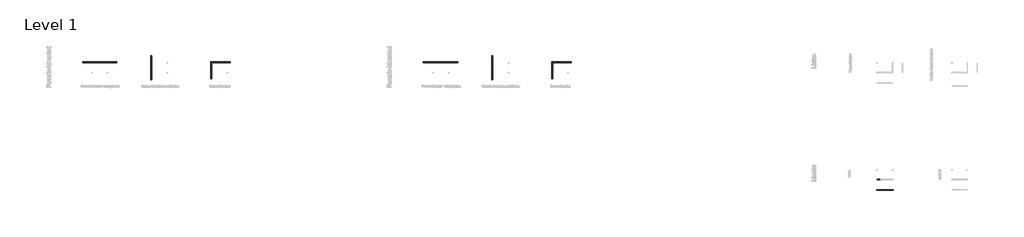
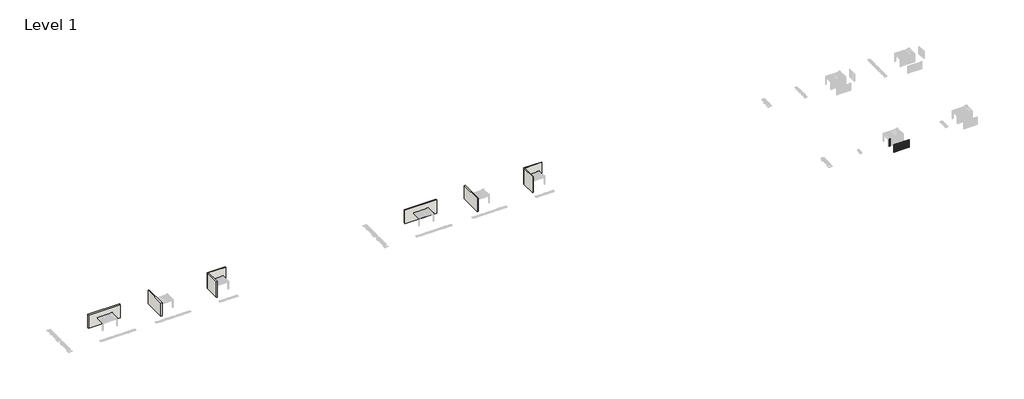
# One storey, part 1 of 47: 79 plates, 22 members, 8 walls.
"""IFC4 building model written with IfcOpenShell, lengths in millimetres."""

from ifc_helpers import new_model, si_unit, origin, origin_with_axes, place, context, project, spatial, polyline, outline, extrude, faceted_brep, transform, mapped, element, save
from components import rectangular_mullion_d2d7e0ae

model = new_model("IFC4")

# Units and contexts
model_context = context("Model", 3, world=origin())
ifc_project = project(units=[si_unit("LENGTHUNIT", "METRE", prefix="MILLI")], contexts=[model_context])

# Site, building, storey
site = spatial("IfcSite", under=ifc_project)
building = spatial("IfcBuilding", under=site)
storey = spatial("IfcBuildingStorey", under=building, Name="Level 1", Elevation=0.0)

# Members
placement = place(None, origin())
rectangular_mullion_shape = rectangular_mullion_d2d7e0ae(model_context)
element("IfcMember", 1, ObjectType="Rectangular Mullion : Renson_Linarte_LA-E25-01", at=placement, inside=storey, context=model_context, shape_type="MappedRepresentation", body=[
    mapped(rectangular_mullion_shape, transform((190463.0817456, 9961.9490047, 0.0), x_axis=(1.0, 0.0, 0.0), y_axis=(0.0, -1.0, 0.0), z_axis=(0.0, 0.0, -1.0))),
])
element("IfcMember", 2, ObjectType="Rectangular Mullion : Renson_Linarte_LA-E25-01", at=placement, inside=storey, context=model_context, shape_type="MappedRepresentation", body=[
    mapped(rectangular_mullion_shape, transform((187163.0817456, 9961.9490047, 0.0), x_axis=(1.0, 0.0, 0.0), y_axis=(0.0, -1.0, 0.0), z_axis=(0.0, 0.0, -1.0))),
])
element("IfcMember", 3, ObjectType="Rectangular Mullion : Renson_Linarte_LA-E25-01", at=placement, inside=storey, context=model_context, shape_type="MappedRepresentation", body=[
    mapped(rectangular_mullion_shape, transform((187103.0817456, 9961.9490047, 0.0), x_axis=(1.0, 0.0, 0.0), y_axis=(0.0, -1.0, 0.0), z_axis=(0.0, 0.0, -1.0))),
])
element("IfcMember", 4, ObjectType="Rectangular Mullion : Renson_Linarte_LA-E25-01", at=placement, inside=storey, context=model_context, shape_type="MappedRepresentation", body=[
    mapped(rectangular_mullion_shape, transform((187043.0817456, 9961.9490047, 0.0), x_axis=(1.0, 0.0, 0.0), y_axis=(0.0, -1.0, 0.0), z_axis=(0.0, 0.0, -1.0))),
])
element("IfcMember", 5, ObjectType="Rectangular Mullion : Renson_Linarte_LA-E25-01", at=placement, inside=storey, context=model_context, shape_type="MappedRepresentation", body=[
    mapped(rectangular_mullion_shape, transform((186983.0817456, 9961.9490047, 0.0), x_axis=(1.0, 0.0, 0.0), y_axis=(0.0, -1.0, 0.0), z_axis=(0.0, 0.0, -1.0))),
])
element("IfcMember", 6, ObjectType="Rectangular Mullion : Renson_Linarte_LA-E25-01", at=placement, inside=storey, context=model_context, shape_type="MappedRepresentation", body=[
    mapped(rectangular_mullion_shape, transform((186923.0817456, 9961.9490047, 0.0), x_axis=(1.0, 0.0, 0.0), y_axis=(0.0, -1.0, 0.0), z_axis=(0.0, 0.0, -1.0))),
])
element("IfcMember", 7, ObjectType="Rectangular Mullion : Renson_Linarte_LA-E25-01", at=placement, inside=storey, context=model_context, shape_type="MappedRepresentation", body=[
    mapped(rectangular_mullion_shape, transform((186863.0817456, 9961.9490047, 0.0), x_axis=(1.0, 0.0, 0.0), y_axis=(0.0, -1.0, 0.0), z_axis=(0.0, 0.0, -1.0))),
])
element("IfcMember", 8, ObjectType="Rectangular Mullion : Renson_Linarte_LA-E25-01", at=placement, inside=storey, context=model_context, shape_type="MappedRepresentation", body=[
    mapped(rectangular_mullion_shape, transform((186803.0817456, 9961.9490047, 0.0), x_axis=(1.0, 0.0, 0.0), y_axis=(0.0, -1.0, 0.0), z_axis=(0.0, 0.0, -1.0))),
])
element("IfcMember", 9, ObjectType="Rectangular Mullion : Renson_Linarte_LA-E25-01", at=placement, inside=storey, context=model_context, shape_type="MappedRepresentation", body=[
    mapped(rectangular_mullion_shape, transform((186743.0817456, 9961.9490047, 0.0), x_axis=(1.0, 0.0, 0.0), y_axis=(0.0, -1.0, 0.0), z_axis=(0.0, 0.0, -1.0))),
])
element("IfcMember", 10, ObjectType="Rectangular Mullion : Renson_Linarte_LA-E25-01", at=placement, inside=storey, context=model_context, shape_type="MappedRepresentation", body=[
    mapped(rectangular_mullion_shape, transform((186683.0817456, 9961.9490047, 0.0), x_axis=(1.0, 0.0, 0.0), y_axis=(0.0, -1.0, 0.0), z_axis=(0.0, 0.0, -1.0))),
])
element("IfcMember", 11, ObjectType="Rectangular Mullion : Renson_Linarte_LA-E25-01", at=placement, inside=storey, context=model_context, shape_type="MappedRepresentation", body=[
    mapped(rectangular_mullion_shape, transform((186623.0817456, 9961.9490047, 0.0), x_axis=(1.0, 0.0, 0.0), y_axis=(0.0, -1.0, 0.0), z_axis=(0.0, 0.0, -1.0))),
])
element("IfcMember", 12, ObjectType="Rectangular Mullion : Renson_Linarte_LA-E25-01", at=placement, inside=storey, context=model_context, shape_type="MappedRepresentation", body=[
    mapped(rectangular_mullion_shape, transform((186563.0817456, 9961.9490047, 0.0), x_axis=(1.0, 0.0, 0.0), y_axis=(0.0, -1.0, 0.0), z_axis=(0.0, 0.0, -1.0))),
])
element("IfcMember", 13, ObjectType="Rectangular Mullion : Renson_Linarte_LA-E25-01", at=placement, inside=storey, context=model_context, shape_type="MappedRepresentation", body=[
    mapped(rectangular_mullion_shape, transform((186503.0817456, 9961.9490047, 0.0), x_axis=(1.0, 0.0, 0.0), y_axis=(0.0, -1.0, 0.0), z_axis=(0.0, 0.0, -1.0))),
])
element("IfcMember", 14, ObjectType="Rectangular Mullion : Renson_Linarte_LA-E25-01", at=placement, inside=storey, context=model_context, shape_type="MappedRepresentation", body=[
    mapped(rectangular_mullion_shape, transform((186443.0817456, 9961.9490047, 0.0), x_axis=(1.0, 0.0, 0.0), y_axis=(0.0, -1.0, 0.0), z_axis=(0.0, 0.0, -1.0))),
])
element("IfcMember", 15, ObjectType="Rectangular Mullion : Renson_Linarte_LA-E25-01", at=placement, inside=storey, context=model_context, shape_type="MappedRepresentation", body=[
    mapped(rectangular_mullion_shape, transform((186902.4238388, 12609.3326462, 0.0), x_axis=(1.0, 0.0, 0.0), y_axis=(0.0, -1.0, 0.0), z_axis=(0.0, 0.0, -1.0))),
])
element("IfcMember", 16, ObjectType="Rectangular Mullion : Renson_Linarte_LA-E25-01", at=placement, inside=storey, context=model_context, shape_type="MappedRepresentation", body=[
    mapped(rectangular_mullion_shape, transform((186842.4238388, 12609.3326462, 0.0), x_axis=(1.0, 0.0, 0.0), y_axis=(0.0, -1.0, 0.0), z_axis=(0.0, 0.0, -1.0))),
])
element("IfcMember", 17, ObjectType="Rectangular Mullion : Renson_Linarte_LA-E25-01", at=placement, inside=storey, context=model_context, shape_type="MappedRepresentation", body=[
    mapped(rectangular_mullion_shape, transform((186782.4238388, 12609.3326462, 0.0), x_axis=(1.0, 0.0, 0.0), y_axis=(0.0, -1.0, 0.0), z_axis=(0.0, 0.0, -1.0))),
])
element("IfcMember", 18, ObjectType="Rectangular Mullion : Renson_Linarte_LA-E25-01", at=placement, inside=storey, context=model_context, shape_type="MappedRepresentation", body=[
    mapped(rectangular_mullion_shape, transform((186722.4238388, 12609.3326462, 0.0), x_axis=(1.0, 0.0, 0.0), y_axis=(0.0, -1.0, 0.0), z_axis=(0.0, 0.0, -1.0))),
])
element("IfcMember", 19, ObjectType="Rectangular Mullion : Renson_Linarte_LA-E25-01", at=placement, inside=storey, context=model_context, shape_type="MappedRepresentation", body=[
    mapped(rectangular_mullion_shape, transform((186662.4238388, 12609.3326462, 0.0), x_axis=(1.0, 0.0, 0.0), y_axis=(0.0, -1.0, 0.0), z_axis=(0.0, 0.0, -1.0))),
])
element("IfcMember", 20, ObjectType="Rectangular Mullion : Renson_Linarte_LA-E25-01", at=placement, inside=storey, context=model_context, shape_type="MappedRepresentation", body=[
    mapped(rectangular_mullion_shape, transform((186602.4238388, 12609.3326462, 0.0), x_axis=(1.0, 0.0, 0.0), y_axis=(0.0, -1.0, 0.0), z_axis=(0.0, 0.0, -1.0))),
])
element("IfcMember", 21, ObjectType="Rectangular Mullion : Renson_Linarte_LA-E25-01", at=placement, inside=storey, context=model_context, shape_type="MappedRepresentation", body=[
    mapped(rectangular_mullion_shape, transform((186542.4238388, 12609.3326462, 0.0), x_axis=(1.0, 0.0, 0.0), y_axis=(0.0, -1.0, 0.0), z_axis=(0.0, 0.0, -1.0))),
])
element("IfcMember", 22, ObjectType="Rectangular Mullion : Renson_Linarte_LA-E25-01", at=placement, inside=storey, context=model_context, shape_type="MappedRepresentation", body=[
    mapped(rectangular_mullion_shape, transform((186383.0817456, 9961.9490047, 0.0), x_axis=(1.0, 0.0, 0.0), y_axis=(0.0, -1.0, 0.0), z_axis=(0.0, 0.0, -1.0))),
])

# Plates
element("IfcPlate", 23, ObjectType="Base - 64mm", at=placement, inside=storey, context=model_context, shape_type="SweptSolid", body=[
    extrude(outline(polyline([(190463.0817456, 9929.9490047), (190403.0817456, 9929.9490047), (190403.0817456, 9993.9490047), (190463.0817456, 9993.9490047), (190463.0817456, 9929.9490047)])), origin_with_axes(), (0.0, 0.0, 1.0), 2000.0),
])
element("IfcPlate", 24, ObjectType="Base - 64mm", at=placement, inside=storey, context=model_context, shape_type="SweptSolid", body=[
    extrude(outline(polyline([(190403.0817456, 9929.9490047), (190343.0817456, 9929.9490047), (190343.0817456, 9993.9490047), (190403.0817456, 9993.9490047), (190403.0817456, 9929.9490047)])), origin_with_axes(), (0.0, 0.0, 1.0), 2000.0),
])
element("IfcPlate", 25, ObjectType="Base - 64mm", at=placement, inside=storey, context=model_context, shape_type="SweptSolid", body=[
    extrude(outline(polyline([(190343.0817456, 9929.9490047), (190283.0817456, 9929.9490047), (190283.0817456, 9993.9490047), (190343.0817456, 9993.9490047), (190343.0817456, 9929.9490047)])), origin_with_axes(), (0.0, 0.0, 1.0), 2000.0),
])
element("IfcPlate", 26, ObjectType="Base - 64mm", at=placement, inside=storey, context=model_context, shape_type="SweptSolid", body=[
    extrude(outline(polyline([(190283.0817456, 9929.9490047), (190223.0817456, 9929.9490047), (190223.0817456, 9993.9490047), (190283.0817456, 9993.9490047), (190283.0817456, 9929.9490047)])), origin_with_axes(), (0.0, 0.0, 1.0), 2000.0),
])
element("IfcPlate", 27, ObjectType="Base - 64mm", at=placement, inside=storey, context=model_context, shape_type="SweptSolid", body=[
    extrude(outline(polyline([(190223.0817456, 9929.9490047), (190163.0817456, 9929.9490047), (190163.0817456, 9993.9490047), (190223.0817456, 9993.9490047), (190223.0817456, 9929.9490047)])), origin_with_axes(), (0.0, 0.0, 1.0), 2000.0),
])
element("IfcPlate", 28, ObjectType="Base - 64mm", at=placement, inside=storey, context=model_context, shape_type="SweptSolid", body=[
    extrude(outline(polyline([(190163.0817456, 9929.9490047), (190103.0817456, 9929.9490047), (190103.0817456, 9993.9490047), (190163.0817456, 9993.9490047), (190163.0817456, 9929.9490047)])), origin_with_axes(), (0.0, 0.0, 1.0), 2000.0),
])
element("IfcPlate", 29, ObjectType="Base - 64mm", at=placement, inside=storey, context=model_context, shape_type="SweptSolid", body=[
    extrude(outline(polyline([(190103.0817456, 9929.9490047), (190043.0817456, 9929.9490047), (190043.0817456, 9993.9490047), (190103.0817456, 9993.9490047), (190103.0817456, 9929.9490047)])), origin_with_axes(), (0.0, 0.0, 1.0), 2000.0),
])
element("IfcPlate", 30, ObjectType="Base - 64mm", at=placement, inside=storey, context=model_context, shape_type="SweptSolid", body=[
    extrude(outline(polyline([(190043.0817456, 9929.9490047), (189983.0817456, 9929.9490047), (189983.0817456, 9993.9490047), (190043.0817456, 9993.9490047), (190043.0817456, 9929.9490047)])), origin_with_axes(), (0.0, 0.0, 1.0), 2000.0),
])
element("IfcPlate", 31, ObjectType="Base - 64mm", at=placement, inside=storey, context=model_context, shape_type="SweptSolid", body=[
    extrude(outline(polyline([(189983.0817456, 9929.9490047), (189923.0817456, 9929.9490047), (189923.0817456, 9993.9490047), (189983.0817456, 9993.9490047), (189983.0817456, 9929.9490047)])), origin_with_axes(), (0.0, 0.0, 1.0), 2000.0),
])
element("IfcPlate", 32, ObjectType="Base - 64mm", at=placement, inside=storey, context=model_context, shape_type="SweptSolid", body=[
    extrude(outline(polyline([(189923.0817456, 9929.9490047), (189863.0817456, 9929.9490047), (189863.0817456, 9993.9490047), (189923.0817456, 9993.9490047), (189923.0817456, 9929.9490047)])), origin_with_axes(), (0.0, 0.0, 1.0), 2000.0),
])
element("IfcPlate", 33, ObjectType="Base - 64mm", at=placement, inside=storey, context=model_context, shape_type="SweptSolid", body=[
    extrude(outline(polyline([(189863.0817456, 9929.9490047), (189803.0817456, 9929.9490047), (189803.0817456, 9993.9490047), (189863.0817456, 9993.9490047), (189863.0817456, 9929.9490047)])), origin_with_axes(), (0.0, 0.0, 1.0), 2000.0),
])
element("IfcPlate", 34, ObjectType="Base - 64mm", at=placement, inside=storey, context=model_context, shape_type="SweptSolid", body=[
    extrude(outline(polyline([(189803.0817456, 9929.9490047), (189743.0817456, 9929.9490047), (189743.0817456, 9993.9490047), (189803.0817456, 9993.9490047), (189803.0817456, 9929.9490047)])), origin_with_axes(), (0.0, 0.0, 1.0), 2000.0),
])
element("IfcPlate", 35, ObjectType="Base - 64mm", at=placement, inside=storey, context=model_context, shape_type="SweptSolid", body=[
    extrude(outline(polyline([(189743.0817456, 9929.9490047), (189683.0817456, 9929.9490047), (189683.0817456, 9993.9490047), (189743.0817456, 9993.9490047), (189743.0817456, 9929.9490047)])), origin_with_axes(), (0.0, 0.0, 1.0), 2000.0),
])
element("IfcPlate", 36, ObjectType="Base - 64mm", at=placement, inside=storey, context=model_context, shape_type="SweptSolid", body=[
    extrude(outline(polyline([(189683.0817456, 9929.9490047), (189623.0817456, 9929.9490047), (189623.0817456, 9993.9490047), (189683.0817456, 9993.9490047), (189683.0817456, 9929.9490047)])), origin_with_axes(), (0.0, 0.0, 1.0), 2000.0),
])
element("IfcPlate", 37, ObjectType="Base - 64mm", at=placement, inside=storey, context=model_context, shape_type="SweptSolid", body=[
    extrude(outline(polyline([(189623.0817456, 9929.9490047), (189563.0817456, 9929.9490047), (189563.0817456, 9993.9490047), (189623.0817456, 9993.9490047), (189623.0817456, 9929.9490047)])), origin_with_axes(), (0.0, 0.0, 1.0), 2000.0),
])
element("IfcPlate", 38, ObjectType="Base - 64mm", at=placement, inside=storey, context=model_context, shape_type="SweptSolid", body=[
    extrude(outline(polyline([(189563.0817456, 9929.9490047), (189503.0817456, 9929.9490047), (189503.0817456, 9993.9490047), (189563.0817456, 9993.9490047), (189563.0817456, 9929.9490047)])), origin_with_axes(), (0.0, 0.0, 1.0), 2000.0),
])
element("IfcPlate", 39, ObjectType="Base - 64mm", at=placement, inside=storey, context=model_context, shape_type="SweptSolid", body=[
    extrude(outline(polyline([(189503.0817456, 9929.9490047), (189443.0817456, 9929.9490047), (189443.0817456, 9993.9490047), (189503.0817456, 9993.9490047), (189503.0817456, 9929.9490047)])), origin_with_axes(), (0.0, 0.0, 1.0), 2000.0),
])
element("IfcPlate", 40, ObjectType="Base - 64mm", at=placement, inside=storey, context=model_context, shape_type="SweptSolid", body=[
    extrude(outline(polyline([(189443.0817456, 9929.9490047), (189383.0817456, 9929.9490047), (189383.0817456, 9993.9490047), (189443.0817456, 9993.9490047), (189443.0817456, 9929.9490047)])), origin_with_axes(), (0.0, 0.0, 1.0), 2000.0),
])
element("IfcPlate", 41, ObjectType="Base - 64mm", at=placement, inside=storey, context=model_context, shape_type="SweptSolid", body=[
    extrude(outline(polyline([(189383.0817456, 9929.9490047), (189323.0817456, 9929.9490047), (189323.0817456, 9993.9490047), (189383.0817456, 9993.9490047), (189383.0817456, 9929.9490047)])), origin_with_axes(), (0.0, 0.0, 1.0), 2000.0),
])
element("IfcPlate", 42, ObjectType="Base - 64mm", at=placement, inside=storey, context=model_context, shape_type="SweptSolid", body=[
    extrude(outline(polyline([(189323.0817456, 9929.9490047), (189263.0817456, 9929.9490047), (189263.0817456, 9993.9490047), (189323.0817456, 9993.9490047), (189323.0817456, 9929.9490047)])), origin_with_axes(), (0.0, 0.0, 1.0), 2000.0),
])
element("IfcPlate", 43, ObjectType="Base - 64mm", at=placement, inside=storey, context=model_context, shape_type="SweptSolid", body=[
    extrude(outline(polyline([(189263.0817456, 9929.9490047), (189203.0817456, 9929.9490047), (189203.0817456, 9993.9490047), (189263.0817456, 9993.9490047), (189263.0817456, 9929.9490047)])), origin_with_axes(), (0.0, 0.0, 1.0), 2000.0),
])
element("IfcPlate", 44, ObjectType="Base - 64mm", at=placement, inside=storey, context=model_context, shape_type="SweptSolid", body=[
    extrude(outline(polyline([(189203.0817456, 9929.9490047), (189143.0817456, 9929.9490047), (189143.0817456, 9993.9490047), (189203.0817456, 9993.9490047), (189203.0817456, 9929.9490047)])), origin_with_axes(), (0.0, 0.0, 1.0), 2000.0),
])
element("IfcPlate", 45, ObjectType="Base - 64mm", at=placement, inside=storey, context=model_context, shape_type="SweptSolid", body=[
    extrude(outline(polyline([(189143.0817456, 9929.9490047), (189083.0817456, 9929.9490047), (189083.0817456, 9993.9490047), (189143.0817456, 9993.9490047), (189143.0817456, 9929.9490047)])), origin_with_axes(), (0.0, 0.0, 1.0), 2000.0),
])
element("IfcPlate", 46, ObjectType="Base - 64mm", at=placement, inside=storey, context=model_context, shape_type="SweptSolid", body=[
    extrude(outline(polyline([(189083.0817456, 9929.9490047), (189023.0817456, 9929.9490047), (189023.0817456, 9993.9490047), (189083.0817456, 9993.9490047), (189083.0817456, 9929.9490047)])), origin_with_axes(), (0.0, 0.0, 1.0), 2000.0),
])
element("IfcPlate", 47, ObjectType="Base - 64mm", at=placement, inside=storey, context=model_context, shape_type="SweptSolid", body=[
    extrude(outline(polyline([(189023.0817456, 9929.9490047), (188963.0817456, 9929.9490047), (188963.0817456, 9993.9490047), (189023.0817456, 9993.9490047), (189023.0817456, 9929.9490047)])), origin_with_axes(), (0.0, 0.0, 1.0), 2000.0),
])
element("IfcPlate", 48, ObjectType="Base - 64mm", at=placement, inside=storey, context=model_context, shape_type="SweptSolid", body=[
    extrude(outline(polyline([(188963.0817456, 9929.9490047), (188903.0817456, 9929.9490047), (188903.0817456, 9993.9490047), (188963.0817456, 9993.9490047), (188963.0817456, 9929.9490047)])), origin_with_axes(), (0.0, 0.0, 1.0), 2000.0),
])
element("IfcPlate", 49, ObjectType="Base - 64mm", at=placement, inside=storey, context=model_context, shape_type="SweptSolid", body=[
    extrude(outline(polyline([(188903.0817456, 9929.9490047), (188843.0817456, 9929.9490047), (188843.0817456, 9993.9490047), (188903.0817456, 9993.9490047), (188903.0817456, 9929.9490047)])), origin_with_axes(), (0.0, 0.0, 1.0), 2000.0),
])
element("IfcPlate", 50, ObjectType="Base - 64mm", at=placement, inside=storey, context=model_context, shape_type="SweptSolid", body=[
    extrude(outline(polyline([(188843.0817456, 9929.9490047), (188783.0817456, 9929.9490047), (188783.0817456, 9993.9490047), (188843.0817456, 9993.9490047), (188843.0817456, 9929.9490047)])), origin_with_axes(), (0.0, 0.0, 1.0), 2000.0),
])
element("IfcPlate", 51, ObjectType="Base - 64mm", at=placement, inside=storey, context=model_context, shape_type="SweptSolid", body=[
    extrude(outline(polyline([(188783.0817456, 9929.9490047), (188723.0817456, 9929.9490047), (188723.0817456, 9993.9490047), (188783.0817456, 9993.9490047), (188783.0817456, 9929.9490047)])), origin_with_axes(), (0.0, 0.0, 1.0), 2000.0),
])
element("IfcPlate", 52, ObjectType="Base - 64mm", at=placement, inside=storey, context=model_context, shape_type="SweptSolid", body=[
    extrude(outline(polyline([(188723.0817456, 9929.9490047), (188663.0817456, 9929.9490047), (188663.0817456, 9993.9490047), (188723.0817456, 9993.9490047), (188723.0817456, 9929.9490047)])), origin_with_axes(), (0.0, 0.0, 1.0), 2000.0),
])
element("IfcPlate", 53, ObjectType="Base - 64mm", at=placement, inside=storey, context=model_context, shape_type="SweptSolid", body=[
    extrude(outline(polyline([(188663.0817456, 9929.9490047), (188603.0817456, 9929.9490047), (188603.0817456, 9993.9490047), (188663.0817456, 9993.9490047), (188663.0817456, 9929.9490047)])), origin_with_axes(), (0.0, 0.0, 1.0), 2000.0),
])
element("IfcPlate", 54, ObjectType="Base - 64mm", at=placement, inside=storey, context=model_context, shape_type="SweptSolid", body=[
    extrude(outline(polyline([(188603.0817456, 9929.9490047), (188543.0817456, 9929.9490047), (188543.0817456, 9993.9490047), (188603.0817456, 9993.9490047), (188603.0817456, 9929.9490047)])), origin_with_axes(), (0.0, 0.0, 1.0), 2000.0),
])
element("IfcPlate", 55, ObjectType="Base - 64mm", at=placement, inside=storey, context=model_context, shape_type="SweptSolid", body=[
    extrude(outline(polyline([(188543.0817456, 9929.9490047), (188483.0817456, 9929.9490047), (188483.0817456, 9993.9490047), (188543.0817456, 9993.9490047), (188543.0817456, 9929.9490047)])), origin_with_axes(), (0.0, 0.0, 1.0), 2000.0),
])
element("IfcPlate", 56, ObjectType="Base - 64mm", at=placement, inside=storey, context=model_context, shape_type="SweptSolid", body=[
    extrude(outline(polyline([(188483.0817456, 9929.9490047), (188423.0817456, 9929.9490047), (188423.0817456, 9993.9490047), (188483.0817456, 9993.9490047), (188483.0817456, 9929.9490047)])), origin_with_axes(), (0.0, 0.0, 1.0), 2000.0),
])
element("IfcPlate", 57, ObjectType="Base - 64mm", at=placement, inside=storey, context=model_context, shape_type="SweptSolid", body=[
    extrude(outline(polyline([(188423.0817456, 9929.9490047), (188363.0817456, 9929.9490047), (188363.0817456, 9993.9490047), (188423.0817456, 9993.9490047), (188423.0817456, 9929.9490047)])), origin_with_axes(), (0.0, 0.0, 1.0), 2000.0),
])
element("IfcPlate", 58, ObjectType="Base - 64mm", at=placement, inside=storey, context=model_context, shape_type="SweptSolid", body=[
    extrude(outline(polyline([(188363.0817456, 9929.9490047), (188303.0817456, 9929.9490047), (188303.0817456, 9993.9490047), (188363.0817456, 9993.9490047), (188363.0817456, 9929.9490047)])), origin_with_axes(), (0.0, 0.0, 1.0), 2000.0),
])
element("IfcPlate", 59, ObjectType="Base - 64mm", at=placement, inside=storey, context=model_context, shape_type="SweptSolid", body=[
    extrude(outline(polyline([(188303.0817456, 9929.9490047), (188243.0817456, 9929.9490047), (188243.0817456, 9993.9490047), (188303.0817456, 9993.9490047), (188303.0817456, 9929.9490047)])), origin_with_axes(), (0.0, 0.0, 1.0), 2000.0),
])
element("IfcPlate", 60, ObjectType="Base - 64mm", at=placement, inside=storey, context=model_context, shape_type="SweptSolid", body=[
    extrude(outline(polyline([(188243.0817456, 9929.9490047), (188183.0817456, 9929.9490047), (188183.0817456, 9993.9490047), (188243.0817456, 9993.9490047), (188243.0817456, 9929.9490047)])), origin_with_axes(), (0.0, 0.0, 1.0), 2000.0),
])
element("IfcPlate", 61, ObjectType="Base - 64mm", at=placement, inside=storey, context=model_context, shape_type="SweptSolid", body=[
    extrude(outline(polyline([(188183.0817456, 9929.9490047), (188123.0817456, 9929.9490047), (188123.0817456, 9993.9490047), (188183.0817456, 9993.9490047), (188183.0817456, 9929.9490047)])), origin_with_axes(), (0.0, 0.0, 1.0), 2000.0),
])
element("IfcPlate", 62, ObjectType="Base - 64mm", at=placement, inside=storey, context=model_context, shape_type="SweptSolid", body=[
    extrude(outline(polyline([(188123.0817456, 9929.9490047), (188063.0817456, 9929.9490047), (188063.0817456, 9993.9490047), (188123.0817456, 9993.9490047), (188123.0817456, 9929.9490047)])), origin_with_axes(), (0.0, 0.0, 1.0), 2000.0),
])
element("IfcPlate", 63, ObjectType="Base - 64mm", at=placement, inside=storey, context=model_context, shape_type="SweptSolid", body=[
    extrude(outline(polyline([(188063.0817456, 9929.9490047), (188003.0817456, 9929.9490047), (188003.0817456, 9993.9490047), (188063.0817456, 9993.9490047), (188063.0817456, 9929.9490047)])), origin_with_axes(), (0.0, 0.0, 1.0), 2000.0),
])
element("IfcPlate", 64, ObjectType="Base - 64mm", at=placement, inside=storey, context=model_context, shape_type="SweptSolid", body=[
    extrude(outline(polyline([(188003.0817456, 9929.9490047), (187943.0817456, 9929.9490047), (187943.0817456, 9993.9490047), (188003.0817456, 9993.9490047), (188003.0817456, 9929.9490047)])), origin_with_axes(), (0.0, 0.0, 1.0), 2000.0),
])
element("IfcPlate", 65, ObjectType="Base - 64mm", at=placement, inside=storey, context=model_context, shape_type="SweptSolid", body=[
    extrude(outline(polyline([(187943.0817456, 9929.9490047), (187883.0817456, 9929.9490047), (187883.0817456, 9993.9490047), (187943.0817456, 9993.9490047), (187943.0817456, 9929.9490047)])), origin_with_axes(), (0.0, 0.0, 1.0), 2000.0),
])
element("IfcPlate", 66, ObjectType="Base - 64mm", at=placement, inside=storey, context=model_context, shape_type="SweptSolid", body=[
    extrude(outline(polyline([(187883.0817456, 9929.9490047), (187823.0817456, 9929.9490047), (187823.0817456, 9993.9490047), (187883.0817456, 9993.9490047), (187883.0817456, 9929.9490047)])), origin_with_axes(), (0.0, 0.0, 1.0), 2000.0),
])
element("IfcPlate", 67, ObjectType="Base - 64mm", at=placement, inside=storey, context=model_context, shape_type="SweptSolid", body=[
    extrude(outline(polyline([(187823.0817456, 9929.9490047), (187763.0817456, 9929.9490047), (187763.0817456, 9993.9490047), (187823.0817456, 9993.9490047), (187823.0817456, 9929.9490047)])), origin_with_axes(), (0.0, 0.0, 1.0), 2000.0),
])
element("IfcPlate", 68, ObjectType="Base - 64mm", at=placement, inside=storey, context=model_context, shape_type="SweptSolid", body=[
    extrude(outline(polyline([(187763.0817456, 9929.9490047), (187703.0817456, 9929.9490047), (187703.0817456, 9993.9490047), (187763.0817456, 9993.9490047), (187763.0817456, 9929.9490047)])), origin_with_axes(), (0.0, 0.0, 1.0), 2000.0),
])
element("IfcPlate", 69, ObjectType="Base - 64mm", at=placement, inside=storey, context=model_context, shape_type="SweptSolid", body=[
    extrude(outline(polyline([(187703.0817456, 9929.9490047), (187643.0817456, 9929.9490047), (187643.0817456, 9993.9490047), (187703.0817456, 9993.9490047), (187703.0817456, 9929.9490047)])), origin_with_axes(), (0.0, 0.0, 1.0), 2000.0),
])
element("IfcPlate", 70, ObjectType="Base - 64mm", at=placement, inside=storey, context=model_context, shape_type="SweptSolid", body=[
    extrude(outline(polyline([(187643.0817456, 9929.9490047), (187583.0817456, 9929.9490047), (187583.0817456, 9993.9490047), (187643.0817456, 9993.9490047), (187643.0817456, 9929.9490047)])), origin_with_axes(), (0.0, 0.0, 1.0), 2000.0),
])
element("IfcPlate", 71, ObjectType="Base - 64mm", at=placement, inside=storey, context=model_context, shape_type="SweptSolid", body=[
    extrude(outline(polyline([(187583.0817456, 9929.9490047), (187523.0817456, 9929.9490047), (187523.0817456, 9993.9490047), (187583.0817456, 9993.9490047), (187583.0817456, 9929.9490047)])), origin_with_axes(), (0.0, 0.0, 1.0), 2000.0),
])
element("IfcPlate", 72, ObjectType="Base - 64mm", at=placement, inside=storey, context=model_context, shape_type="SweptSolid", body=[
    extrude(outline(polyline([(187523.0817456, 9929.9490047), (187463.0817456, 9929.9490047), (187463.0817456, 9993.9490047), (187523.0817456, 9993.9490047), (187523.0817456, 9929.9490047)])), origin_with_axes(), (0.0, 0.0, 1.0), 2000.0),
])
element("IfcPlate", 73, ObjectType="Base - 64mm", at=placement, inside=storey, context=model_context, shape_type="SweptSolid", body=[
    extrude(outline(polyline([(187463.0817456, 9929.9490047), (187403.0817456, 9929.9490047), (187403.0817456, 9993.9490047), (187463.0817456, 9993.9490047), (187463.0817456, 9929.9490047)])), origin_with_axes(), (0.0, 0.0, 1.0), 2000.0),
])
element("IfcPlate", 74, ObjectType="Base - 64mm", at=placement, inside=storey, context=model_context, shape_type="SweptSolid", body=[
    extrude(outline(polyline([(187403.0817456, 9929.9490047), (187343.0817456, 9929.9490047), (187343.0817456, 9993.9490047), (187403.0817456, 9993.9490047), (187403.0817456, 9929.9490047)])), origin_with_axes(), (0.0, 0.0, 1.0), 2000.0),
])
element("IfcPlate", 75, ObjectType="Base - 64mm", at=placement, inside=storey, context=model_context, shape_type="SweptSolid", body=[
    extrude(outline(polyline([(187343.0817456, 9929.9490047), (187283.0817456, 9929.9490047), (187283.0817456, 9993.9490047), (187343.0817456, 9993.9490047), (187343.0817456, 9929.9490047)])), origin_with_axes(), (0.0, 0.0, 1.0), 2000.0),
])
element("IfcPlate", 76, ObjectType="Base - 64mm", at=placement, inside=storey, context=model_context, shape_type="SweptSolid", body=[
    extrude(outline(polyline([(187283.0817456, 9929.9490047), (187223.0817456, 9929.9490047), (187223.0817456, 9993.9490047), (187283.0817456, 9993.9490047), (187283.0817456, 9929.9490047)])), origin_with_axes(), (0.0, 0.0, 1.0), 2000.0),
])
element("IfcPlate", 77, ObjectType="Base - 64mm", at=placement, inside=storey, context=model_context, shape_type="SweptSolid", body=[
    extrude(outline(polyline([(190523.0817453, 9929.9490047), (190463.0817456, 9929.9490047), (190463.0817456, 9993.9490047), (190523.0817453, 9993.9490047), (190523.0817453, 9929.9490047)])), origin_with_axes(), (0.0, 0.0, 1.0), 2000.0),
])
element("IfcPlate", 78, ObjectType="Base - 64mm", at=placement, inside=storey, context=model_context, shape_type="SweptSolid", body=[
    extrude(outline(polyline([(187223.0817456, 9929.9490047), (187163.0817456, 9929.9490047), (187163.0817456, 9993.9490047), (187223.0817456, 9993.9490047), (187223.0817456, 9929.9490047)])), origin_with_axes(), (0.0, 0.0, 1.0), 2000.0),
])
element("IfcPlate", 79, ObjectType="Base - 64mm", at=placement, inside=storey, context=model_context, shape_type="SweptSolid", body=[
    extrude(outline(polyline([(187163.0817456, 9929.9490047), (187103.0817456, 9929.9490047), (187103.0817456, 9993.9490047), (187163.0817456, 9993.9490047), (187163.0817456, 9929.9490047)])), origin_with_axes(), (0.0, 0.0, 1.0), 2000.0),
])
element("IfcPlate", 80, ObjectType="Base - 64mm", at=placement, inside=storey, context=model_context, shape_type="SweptSolid", body=[
    extrude(outline(polyline([(187103.0817456, 9929.9490047), (187043.0817456, 9929.9490047), (187043.0817456, 9993.9490047), (187103.0817456, 9993.9490047), (187103.0817456, 9929.9490047)])), origin_with_axes(), (0.0, 0.0, 1.0), 2000.0),
])
element("IfcPlate", 81, ObjectType="Base - 64mm", at=placement, inside=storey, context=model_context, shape_type="SweptSolid", body=[
    extrude(outline(polyline([(187043.0817456, 9929.9490047), (186983.0817456, 9929.9490047), (186983.0817456, 9993.9490047), (187043.0817456, 9993.9490047), (187043.0817456, 9929.9490047)])), origin_with_axes(), (0.0, 0.0, 1.0), 2000.0),
])
element("IfcPlate", 82, ObjectType="Base - 64mm", at=placement, inside=storey, context=model_context, shape_type="SweptSolid", body=[
    extrude(outline(polyline([(186983.0817456, 9929.9490047), (186923.0817456, 9929.9490047), (186923.0817456, 9993.9490047), (186983.0817456, 9993.9490047), (186983.0817456, 9929.9490047)])), origin_with_axes(), (0.0, 0.0, 1.0), 2000.0),
])
element("IfcPlate", 83, ObjectType="Base - 64mm", at=placement, inside=storey, context=model_context, shape_type="SweptSolid", body=[
    extrude(outline(polyline([(186923.0817456, 9929.9490047), (186863.0817456, 9929.9490047), (186863.0817456, 9993.9490047), (186923.0817456, 9993.9490047), (186923.0817456, 9929.9490047)])), origin_with_axes(), (0.0, 0.0, 1.0), 2000.0),
])
element("IfcPlate", 84, ObjectType="Base - 64mm", at=placement, inside=storey, context=model_context, shape_type="SweptSolid", body=[
    extrude(outline(polyline([(186863.0817456, 9929.9490047), (186803.0817456, 9929.9490047), (186803.0817456, 9993.9490047), (186863.0817456, 9993.9490047), (186863.0817456, 9929.9490047)])), origin_with_axes(), (0.0, 0.0, 1.0), 2000.0),
])
element("IfcPlate", 85, ObjectType="Base - 64mm", at=placement, inside=storey, context=model_context, shape_type="SweptSolid", body=[
    extrude(outline(polyline([(186803.0817456, 9929.9490047), (186743.0817456, 9929.9490047), (186743.0817456, 9993.9490047), (186803.0817456, 9993.9490047), (186803.0817456, 9929.9490047)])), origin_with_axes(), (0.0, 0.0, 1.0), 2000.0),
])
element("IfcPlate", 86, ObjectType="Base - 64mm", at=placement, inside=storey, context=model_context, shape_type="SweptSolid", body=[
    extrude(outline(polyline([(186743.0817456, 9929.9490047), (186683.0817456, 9929.9490047), (186683.0817456, 9993.9490047), (186743.0817456, 9993.9490047), (186743.0817456, 9929.9490047)])), origin_with_axes(), (0.0, 0.0, 1.0), 2000.0),
])
element("IfcPlate", 87, ObjectType="Base - 64mm", at=placement, inside=storey, context=model_context, shape_type="SweptSolid", body=[
    extrude(outline(polyline([(186683.0817456, 9929.9490047), (186623.0817456, 9929.9490047), (186623.0817456, 9993.9490047), (186683.0817456, 9993.9490047), (186683.0817456, 9929.9490047)])), origin_with_axes(), (0.0, 0.0, 1.0), 2000.0),
])
element("IfcPlate", 88, ObjectType="Base - 64mm", at=placement, inside=storey, context=model_context, shape_type="SweptSolid", body=[
    extrude(outline(polyline([(186623.0817456, 9929.9490047), (186563.0817456, 9929.9490047), (186563.0817456, 9993.9490047), (186623.0817456, 9993.9490047), (186623.0817456, 9929.9490047)])), origin_with_axes(), (0.0, 0.0, 1.0), 2000.0),
])
element("IfcPlate", 89, ObjectType="Base - 64mm", at=placement, inside=storey, context=model_context, shape_type="SweptSolid", body=[
    extrude(outline(polyline([(186563.0817456, 9929.9490047), (186503.0817456, 9929.9490047), (186503.0817456, 9993.9490047), (186563.0817456, 9993.9490047), (186563.0817456, 9929.9490047)])), origin_with_axes(), (0.0, 0.0, 1.0), 2000.0),
])
element("IfcPlate", 90, ObjectType="Base - 64mm", at=placement, inside=storey, context=model_context, shape_type="SweptSolid", body=[
    extrude(outline(polyline([(186503.0817456, 9929.9490047), (186443.0817456, 9929.9490047), (186443.0817456, 9993.9490047), (186503.0817456, 9993.9490047), (186503.0817456, 9929.9490047)])), origin_with_axes(), (0.0, 0.0, 1.0), 2000.0),
])
element("IfcPlate", 91, ObjectType="Base - 64mm", at=placement, inside=storey, context=model_context, shape_type="SweptSolid", body=[
    extrude(outline(polyline([(187022.4238388, 12577.3326462), (186962.4238388, 12577.3326462), (186962.4238388, 12641.3326462), (187022.4238388, 12641.3326462), (187022.4238388, 12577.3326462)])), origin_with_axes(), (0.0, 0.0, 1.0), 2000.0),
])
element("IfcPlate", 92, ObjectType="Base - 64mm", at=placement, inside=storey, context=model_context, shape_type="SweptSolid", body=[
    extrude(outline(polyline([(186962.4238388, 12577.3326462), (186902.4238388, 12577.3326462), (186902.4238388, 12641.3326462), (186962.4238388, 12641.3326462), (186962.4238388, 12577.3326462)])), origin_with_axes(), (0.0, 0.0, 1.0), 2000.0),
])
element("IfcPlate", 93, ObjectType="Base - 64mm", at=placement, inside=storey, context=model_context, shape_type="SweptSolid", body=[
    extrude(outline(polyline([(186902.4238388, 12577.3326462), (186842.4238388, 12577.3326462), (186842.4238388, 12641.3326462), (186902.4238388, 12641.3326462), (186902.4238388, 12577.3326462)])), origin_with_axes(), (0.0, 0.0, 1.0), 2000.0),
])
element("IfcPlate", 94, ObjectType="Base - 64mm", at=placement, inside=storey, context=model_context, shape_type="SweptSolid", body=[
    extrude(outline(polyline([(186842.4238388, 12577.3326462), (186782.4238388, 12577.3326462), (186782.4238388, 12641.3326462), (186842.4238388, 12641.3326462), (186842.4238388, 12577.3326462)])), origin_with_axes(), (0.0, 0.0, 1.0), 2000.0),
])
element("IfcPlate", 95, ObjectType="Base - 64mm", at=placement, inside=storey, context=model_context, shape_type="SweptSolid", body=[
    extrude(outline(polyline([(186782.4238388, 12577.3326462), (186722.4238388, 12577.3326462), (186722.4238388, 12641.3326462), (186782.4238388, 12641.3326462), (186782.4238388, 12577.3326462)])), origin_with_axes(), (0.0, 0.0, 1.0), 2000.0),
])
element("IfcPlate", 96, ObjectType="Base - 64mm", at=placement, inside=storey, context=model_context, shape_type="SweptSolid", body=[
    extrude(outline(polyline([(186542.4238388, 12577.3326462), (186482.4238385, 12577.3326462), (186482.4238385, 12641.3326462), (186542.4238388, 12641.3326462), (186542.4238388, 12577.3326462)])), origin_with_axes(), (0.0, 0.0, 1.0), 2000.0),
])
element("IfcPlate", 97, ObjectType="Base - 64mm", at=placement, inside=storey, context=model_context, shape_type="SweptSolid", body=[
    extrude(outline(polyline([(186722.4238388, 12577.3326462), (186662.4238388, 12577.3326462), (186662.4238388, 12641.3326462), (186722.4238388, 12641.3326462), (186722.4238388, 12577.3326462)])), origin_with_axes(), (0.0, 0.0, 1.0), 2000.0),
])
element("IfcPlate", 98, ObjectType="Base - 64mm", at=placement, inside=storey, context=model_context, shape_type="SweptSolid", body=[
    extrude(outline(polyline([(186662.4238388, 12577.3326462), (186602.4238388, 12577.3326462), (186602.4238388, 12641.3326462), (186662.4238388, 12641.3326462), (186662.4238388, 12577.3326462)])), origin_with_axes(), (0.0, 0.0, 1.0), 2000.0),
])
element("IfcPlate", 99, ObjectType="Base - 64mm", at=placement, inside=storey, context=model_context, shape_type="SweptSolid", body=[
    extrude(outline(polyline([(186602.4238388, 12577.3326462), (186542.4238388, 12577.3326462), (186542.4238388, 12641.3326462), (186602.4238388, 12641.3326462), (186602.4238388, 12577.3326462)])), origin_with_axes(), (0.0, 0.0, 1.0), 2000.0),
])
element("IfcPlate", 100, ObjectType="Base - 64mm", at=placement, inside=storey, context=model_context, shape_type="SweptSolid", body=[
    extrude(outline(polyline([(186443.0817456, 9929.9490047), (186383.0817456, 9929.9490047), (186383.0817456, 9993.9490047), (186443.0817456, 9993.9490047), (186443.0817456, 9929.9490047)])), origin_with_axes(), (0.0, 0.0, 1.0), 2000.0),
])
element("IfcPlate", 101, ObjectType="Base - 64mm", at=placement, inside=storey, context=model_context, shape_type="SweptSolid", body=[
    extrude(outline(polyline([(186383.0817456, 9929.9490047), (186323.0817453, 9929.9490047), (186323.0817453, 9993.9490047), (186383.0817456, 9993.9490047), (186383.0817456, 9929.9490047)])), origin_with_axes(), (0.0, 0.0, 1.0), 2000.0),
])

# Walls
element("IfcWall", 102, ObjectType="Generic - 200mm", at=placement, inside=storey, context=model_context, shape_type="Brep", body=[
    faceted_brep([(18645.156869, 42022.1593685, 0.0), (18845.156869, 42022.1593685, 0.0), (23505.4998631, 42022.1593685, 0.0), (23505.4998631, 42022.1593685, 4500.0), (18845.156869, 42022.1593685, 4500.0), (18645.156869, 42022.1593685, 4500.0), (18645.156869, 42222.1593685, 0.0), (18645.156869, 42222.1593685, 4500.0), (23505.4998631, 42222.1593685, 4500.0), (23505.4998631, 42222.1593685, 0.0)], [[[0, 1, 2, 3, 4, 5]], [[6, 7, 8, 9]], [[2, 1, 0, 6, 9]], [[3, 2, 9, 8]], [[5, 4, 3, 8, 7]], [[0, 5, 7, 6]]]),
])
element("IfcWall", 103, ObjectType="Generic - 200mm", at=placement, inside=storey, context=model_context, shape_type="SweptSolid", body=[
    extrude(outline(polyline([(18845.156869, 42022.1593685), (18845.156869, 37972.1593685), (18645.156869, 37972.1593685), (18645.156869, 42022.1593685), (18845.156869, 42022.1593685)])), origin_with_axes(), (0.0, 0.0, 1.0), 4500.0),
])
element("IfcWall", 104, ObjectType="Generic - 200mm", at=placement, inside=storey, context=model_context, shape_type="Brep", body=[
    faceted_brep([(104474.7862597, 42022.1593685, 0.0), (104674.7862597, 42022.1593685, 0.0), (109335.1292539, 42022.1593685, 0.0), (109335.1292539, 42022.1593685, 4500.0), (104674.7862597, 42022.1593685, 4500.0), (104474.7862597, 42022.1593685, 4500.0), (104474.7862597, 42222.1593685, 0.0), (104474.7862597, 42222.1593685, 4500.0), (109335.1292539, 42222.1593685, 4500.0), (109335.1292539, 42222.1593685, 0.0)], [[[0, 1, 2, 3, 4, 5]], [[6, 7, 8, 9]], [[2, 1, 0, 6, 9]], [[3, 2, 9, 8]], [[5, 4, 3, 8, 7]], [[0, 5, 7, 6]]]),
])
element("IfcWall", 105, ObjectType="Generic - 200mm", at=placement, inside=storey, context=model_context, shape_type="SweptSolid", body=[
    extrude(outline(polyline([(104674.7862597, 42022.1593685), (104674.7862597, 37972.1593685), (104474.7862597, 37972.1593685), (104474.7862597, 42022.1593685), (104674.7862597, 42022.1593685)])), origin_with_axes(), (0.0, 0.0, 1.0), 4500.0),
])
element("IfcWall", 106, ObjectType="Generic - 300mm", at=placement, inside=storey, context=model_context, shape_type="SweptSolid", body=[
    extrude(outline(polyline([(-5086.834943, 42022.1593685), (-13686.834943, 42022.1593685), (-13686.834943, 42322.1593685), (-5086.834943, 42322.1593685), (-5086.834943, 42022.1593685)])), origin_with_axes(), (0.0, 0.0, 1.0), 3770.0),
])
element("IfcWall", 107, ObjectType="Generic - 300mm", at=placement, inside=storey, context=model_context, shape_type="SweptSolid", body=[
    extrude(outline(polyline([(3781.4785763, 43772.1593685), (3781.4785763, 37772.1593685), (3481.4785763, 37772.1593685), (3481.4785763, 43772.1593685), (3781.4785763, 43772.1593685)])), origin_with_axes(), (0.0, 0.0, 1.0), 3770.0),
])
element("IfcWall", 108, ObjectType="Generic - 300mm", at=placement, inside=storey, context=model_context, shape_type="SweptSolid", body=[
    extrude(outline(polyline([(80742.7944478, 42022.1593685), (72142.7944478, 42022.1593685), (72142.7944478, 42322.1593685), (80742.7944478, 42322.1593685), (80742.7944478, 42022.1593685)])), origin_with_axes(), (0.0, 0.0, 1.0), 3770.0),
])
element("IfcWall", 109, ObjectType="Generic - 300mm", at=placement, inside=storey, context=model_context, shape_type="SweptSolid", body=[
    extrude(outline(polyline([(89611.1079671, 43772.1593685), (89611.1079671, 37772.1593685), (89311.1079671, 37772.1593685), (89311.1079671, 43772.1593685), (89611.1079671, 43772.1593685)])), origin_with_axes(), (0.0, 0.0, 1.0), 3770.0),
])

save(model, "model.ifc")
